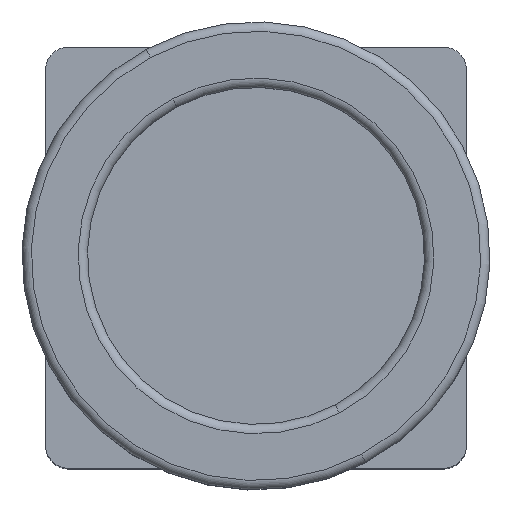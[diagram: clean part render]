
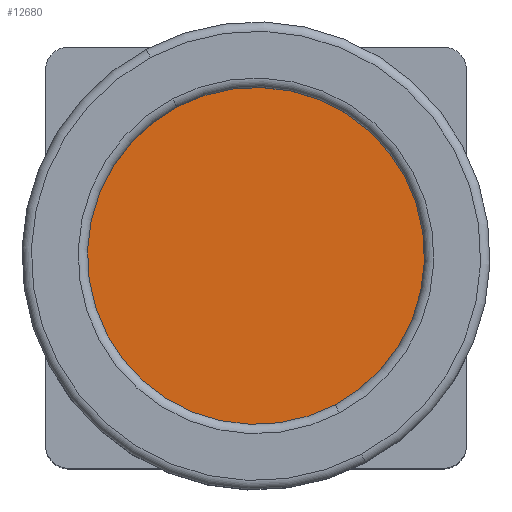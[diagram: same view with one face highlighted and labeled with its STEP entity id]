
A CAD part, top view. The second image highlights one B-rep face of the part: STEP entity #12680.
In plain terms, the highlighted planar face has unit normal (0, 0, 1).
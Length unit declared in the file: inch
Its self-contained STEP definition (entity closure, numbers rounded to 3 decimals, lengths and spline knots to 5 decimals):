
#391 = DIRECTION ( 'NONE',  ( 0., 0., 1. ) ) ;
#510 = AXIS2_PLACEMENT_3D ( 'NONE', #17454, #391, #2412 ) ;
#529 = ORIENTED_EDGE ( 'NONE', *, *, #4906, .T. ) ;
#884 = DIRECTION ( 'NONE',  ( 0., 0., 1. ) ) ;
#2412 = DIRECTION ( 'NONE',  ( 1., 0., 0. ) ) ;
#2572 = AXIS2_PLACEMENT_3D ( 'NONE', #13328, #13043, #6826 ) ;
#4654 = EDGE_CURVE ( 'NONE', #12053, #7711, #9502, .T. ) ;
#4904 = CIRCLE ( 'NONE', #7668, 1.07 ) ;
#4906 = EDGE_CURVE ( 'NONE', #7711, #12053, #4904, .T. ) ;
#6461 = FACE_OUTER_BOUND ( 'NONE', #27354, .T. ) ;
#6826 = DIRECTION ( 'NONE',  ( 1., 0., 0. ) ) ;
#7121 = ORIENTED_EDGE ( 'NONE', *, *, #4654, .T. ) ;
#7668 = AXIS2_PLACEMENT_3D ( 'NONE', #9558, #884, #18397 ) ;
#7711 = VERTEX_POINT ( 'NONE', #12355 ) ;
#9502 = CIRCLE ( 'NONE', #2572, 1.07 ) ;
#9558 = CARTESIAN_POINT ( 'NONE',  ( 0., 0., 0.1875 ) ) ;
#11362 = CARTESIAN_POINT ( 'NONE',  ( 1.07, 0., 0.1875 ) ) ;
#12053 = VERTEX_POINT ( 'NONE', #11362 ) ;
#12355 = CARTESIAN_POINT ( 'NONE',  ( -1.07, 0., 0.1875 ) ) ;
#12680 = ADVANCED_FACE ( 'NONE', ( #6461 ), #28494, .T. ) ;
#13043 = DIRECTION ( 'NONE',  ( 0., 0., 1. ) ) ;
#13328 = CARTESIAN_POINT ( 'NONE',  ( 0., 0., 0.1875 ) ) ;
#17454 = CARTESIAN_POINT ( 'NONE',  ( 0., 0., 0.1875 ) ) ;
#18397 = DIRECTION ( 'NONE',  ( 1., 0., 0. ) ) ;
#27354 = EDGE_LOOP ( 'NONE', ( #529, #7121 ) ) ;
#28494 = PLANE ( 'NONE',  #510 ) ;
